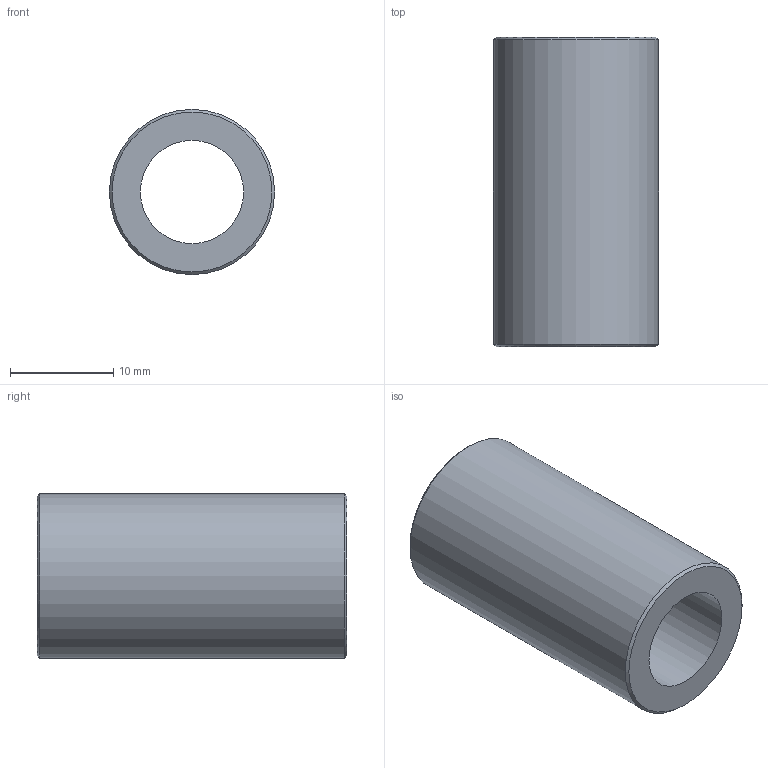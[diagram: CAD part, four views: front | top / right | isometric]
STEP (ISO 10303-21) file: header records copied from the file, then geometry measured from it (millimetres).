
FILE_DESCRIPTION(/* description */ ('','CAx-IF Rec.Pracs.---Representation and Presentation of Product Manufacturing Information (PMI)---4.0---2014-10-13'),/* implementation_level */ '2;1');
FILE_NAME(/* name */ 'Aluminium Spacer - 10mm - 30mm.step',/* time_stamp */ '2024-11-30T18:32:01+02:00',/* author */ (''),/* organization */ (''),/* preprocessor_version */ 'ST-DEVELOPER v20',/* originating_system */ 'Autodesk Translation Framework v13.20.0.188',/* authorisation */ '');
FILE_SCHEMA (('AP242_MANAGED_MODEL_BASED_3D_ENGINEERING_MIM_LF { 1 0 10303 442 1 1 4 }'));
Length unit declared in the file: millimetre
Products named in the file (1): Aluminium Spacer -  10mm - 30mm
Bounding box: 16 x 30 x 16 mm (x, y, z)
Volume: 3672.6 mm3; surface area: 2680.6 mm2
Topology: 1 solids, 1 shells, 6 faces, 10 edges, 6 vertices
Faces by surface type: cone 2, cylinder 2, plane 2
Full cylindrical faces by diameter (mm): 10 x1, 16 x1
Entity records: 181 total; most frequent: DIRECTION 30, CARTESIAN_POINT 23, ORIENTED_EDGE 20, AXIS2_PLACEMENT_3D 13, EDGE_CURVE 10, EDGE_LOOP 8, FACE_OUTER_BOUND 6, CIRCLE 6
